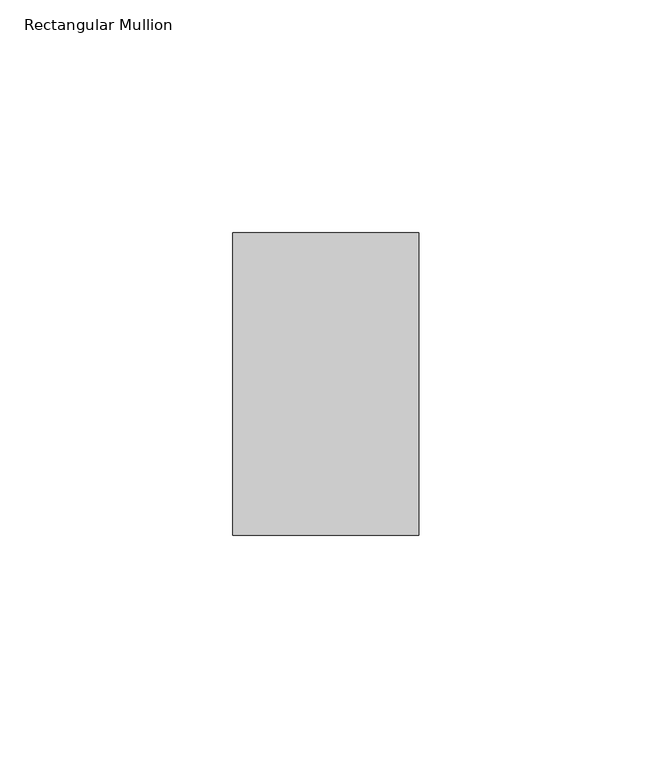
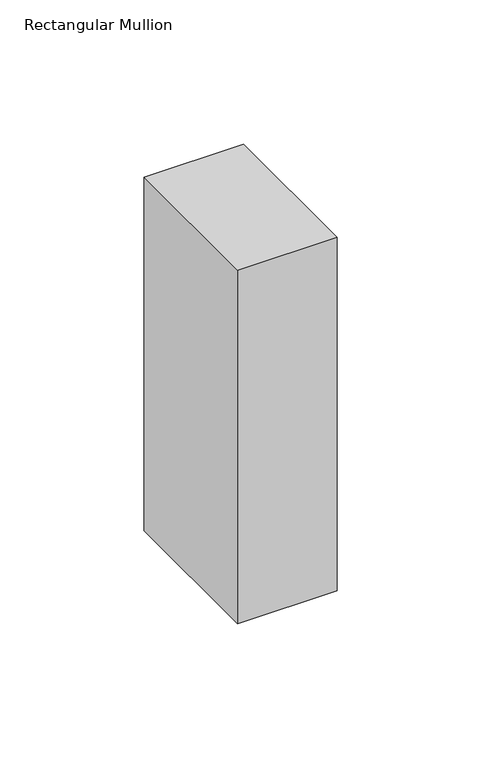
"""IFC4 building model written with IfcOpenShell, lengths in millimetres: member geometry, Rectangular Mullion : Batten_Timber_Modinex_Austratus_Grid_Fascia_40x65_AlaskanYellowCedar."""

from ifc_helpers import new_model, si_unit, frame, origin, place, context, project, spatial, polyline, outline, extrude, source, transform, mapped, element, save


def rectangular_mullion_655930e9(model_context):
    return source(origin(), model_context, "Body", "SweptSolid", [
        extrude(outline(polyline([(-20.0, 65.0), (20.0, 65.0), (20.0, 0.0), (-20.0, 0.0), (-20.0, 65.0)])), frame((0.0, 0.0, -150.0), z_axis=(0.0, 0.0, 1.0), x_axis=(1.0, 0.0, 0.0)), (0.0, 0.0, 1.0), 150.0),
    ])


if __name__ == "__main__":
    model = new_model("IFC4")
    model_context = context("Model", 3, world=origin())
    ifc_project = project(units=[si_unit("LENGTHUNIT", "METRE", prefix="MILLI")], contexts=[model_context])
    site = spatial("IfcSite", under=ifc_project)
    building = spatial("IfcBuilding", under=site)
    placement = place(None, origin())
    rectangular_mullion_shape = rectangular_mullion_655930e9(model_context)
    element("IfcMember", 1, ObjectType="Rectangular Mullion : Batten_Timber_Modinex_Austratus_Grid_Fascia_40x65_AlaskanYellowCedar", at=placement, inside=building, context=model_context, shape_type="MappedRepresentation", body=[
        mapped(rectangular_mullion_shape, transform((0.0, 0.0, 0.0), x_axis=(1.0, 0.0, 0.0), y_axis=(0.0, 1.0, 0.0), z_axis=(0.0, 0.0, 1.0))),
    ])
    save(model, "model.ifc")
